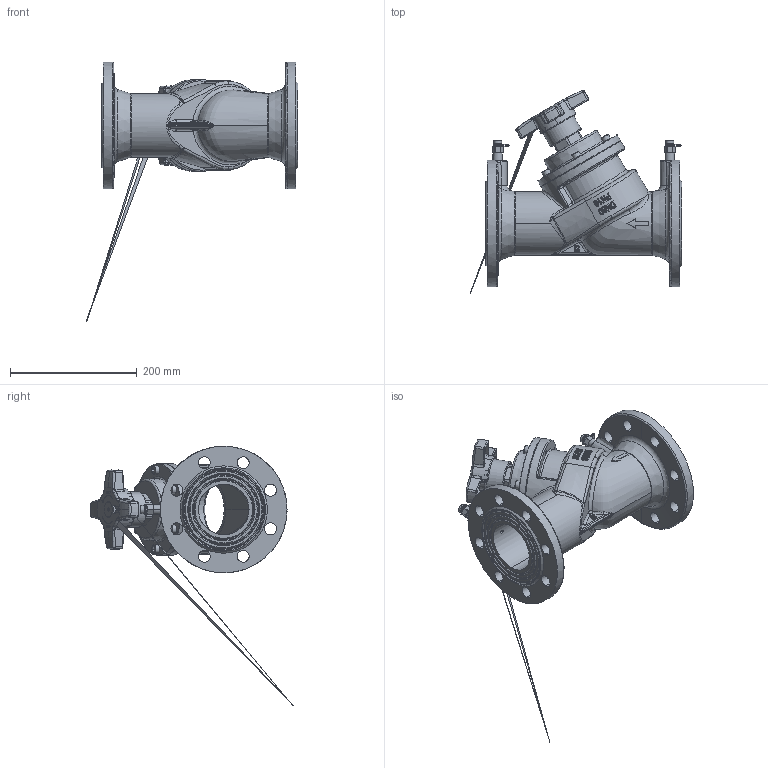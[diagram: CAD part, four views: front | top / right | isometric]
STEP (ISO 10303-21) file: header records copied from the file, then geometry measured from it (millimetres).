
FILE_DESCRIPTION(('STEP AP203'), '1');
FILE_NAME('3D_347-080-16', '', ('UNSPECIFIED'), ('UNSPECIFIED'), 'C3D Converter', 'C3D Toolkit', '');
FILE_SCHEMA(('CONFIG_CONTROL_DESIGN'));
Length unit declared in the file: millimetre
Bounding box: 334.39 x 320.24 x 410 mm (x, y, z)
Volume: 2589073.5 mm3; surface area: 516242.8 mm2
Topology: 4 solids, 12 shells, 1754 faces, 4561 edges, 2908 vertices
Faces by surface type: plane 685, bspline 445, cylinder 399, torus 133, cone 80, sphere 12
Full cylindrical faces by diameter (mm): 3.5 x6, 4 x1, 5 x2, 8 x2, 10 x7, 10.3 x2, 11 x3, 12.8 x4, 13 x8, 14 x2, 19.8 x3, 23 x1, 23.6 x2, 24.4 x1, 24.5 x1, 25 x1, 26 x1, 36 x1, 36.5 x1, 43 x1, 56 x1, 61.5 x1, 78 x2, 80 x2, 83 x1, 94 x2, 145 x1, 200 x2
Entity records: 160989 total; most frequent: CARTESIAN_POINT 108417, ORIENTED_EDGE 8806, DIRECTION 6358, EDGE_CURVE 4403, VERTEX_POINT 2907, AXIS2_PLACEMENT_3D 2322, EDGE_LOOP 2094, FACE_BOUND 1922
